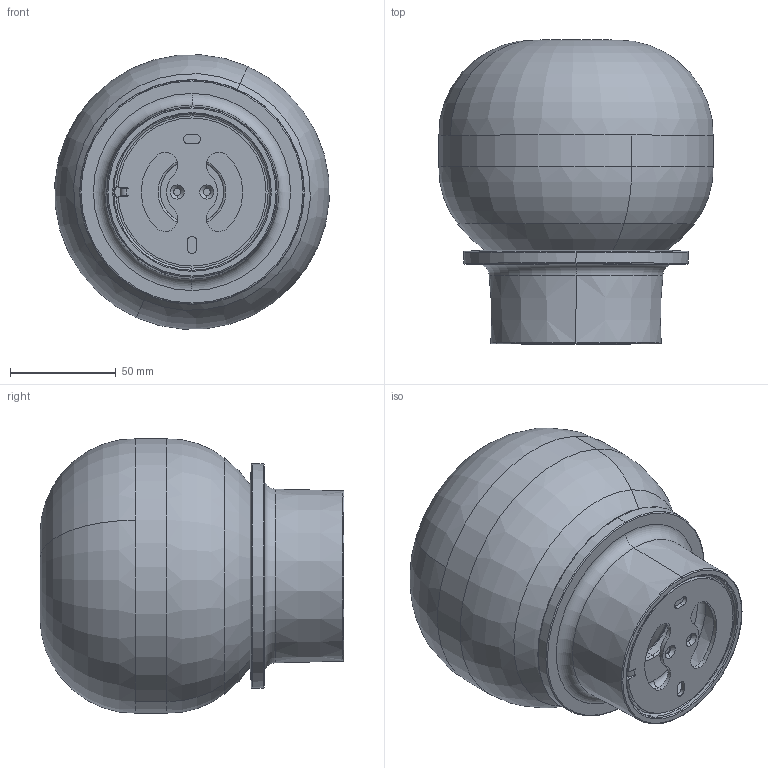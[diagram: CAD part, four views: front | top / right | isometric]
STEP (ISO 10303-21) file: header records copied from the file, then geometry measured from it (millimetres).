
FILE_DESCRIPTION (( 'STEP AP203' ), '1' );
FILE_NAME ('Lille Wall.STEP', '2025-06-05T07:11:29', ( '' ), ( '' ), 'SwSTEP 2.0', 'SolidWorks 2024', '' );
FILE_SCHEMA (( 'CONFIG_CONTROL_DESIGN' ));
Length unit declared in the file: millimetre
Products named in the file (5): ATC-A08-W101-R00; ATC-A08-W100-R00; ATC-A08-W102-R00; Lille Wall; ATA-A08-W100-R00
Assembly tree (4 placements, depth 3):
  Lille Wall
    ATC-A08-W101-R00
    ATA-A08-W100-R00
      ATC-A08-W100-R00
    ATC-A08-W102-R00
Bounding box: 129.69 x 143.69 x 129.69 mm (x, y, z)
Volume: 245554.8 mm3; surface area: 139294.4 mm2
Topology: 3 solids, 3 shells, 127 faces, 296 edges, 178 vertices
Faces by surface type: cylinder 41, torus 39, plane 30, cone 17
Entity records: 4235 total; most frequent: DIRECTION 748, CARTESIAN_POINT 647, ORIENTED_EDGE 592, AXIS2_PLACEMENT_3D 323, EDGE_CURVE 296, CIRCLE 188, VERTEX_POINT 178, EDGE_LOOP 144
